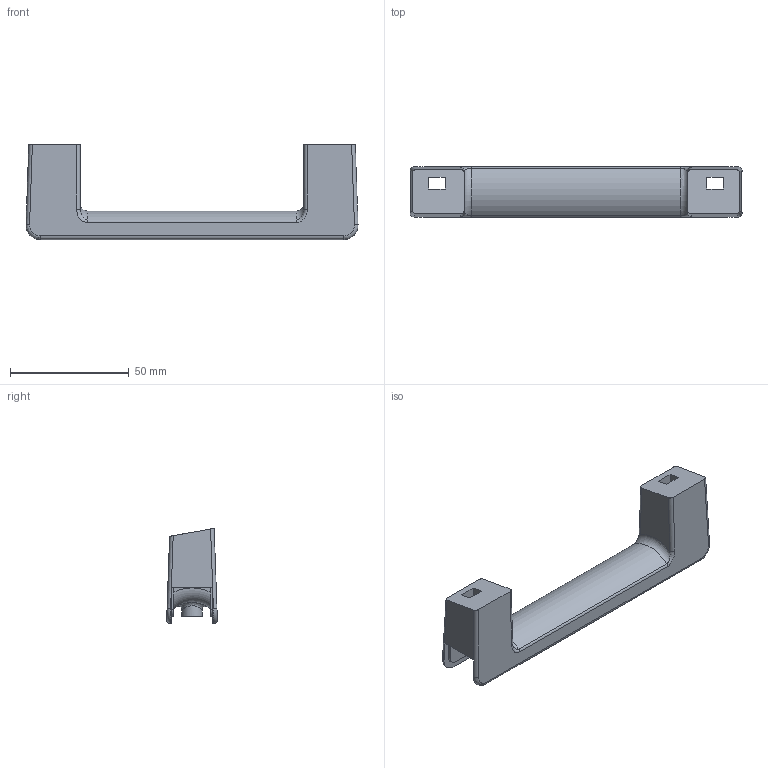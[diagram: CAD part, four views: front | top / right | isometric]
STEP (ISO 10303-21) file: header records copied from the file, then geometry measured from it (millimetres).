
FILE_DESCRIPTION (( 'STEP AP214' ), '1' );
FILE_NAME ('L19201.step', '2024-12-03T16:23:49', ( '' ), ( '' ), 'SwSTEP 2.0', 'SolidWorks 2023', '' );
FILE_SCHEMA (( 'AUTOMOTIVE_DESIGN' ));
Length unit declared in the file: millimetre
Products named in the file (1): L19201
Bounding box: 139.57 x 21.29 x 40 mm (x, y, z)
Volume: 23026.9 mm3; surface area: 18217.6 mm2
Topology: 1 solids, 1 shells, 92 faces, 237 edges, 151 vertices
Faces by surface type: plane 52, cylinder 26, bspline 10, torus 4
Full cylindrical faces by diameter (mm): 4.5 x2, 8.5 x2
Entity records: 4004 total; most frequent: CARTESIAN_POINT 1874, ORIENTED_EDGE 460, DIRECTION 398, EDGE_CURVE 230, VERTEX_POINT 150, LINE 148, VECTOR 148, AXIS2_PLACEMENT_3D 125
